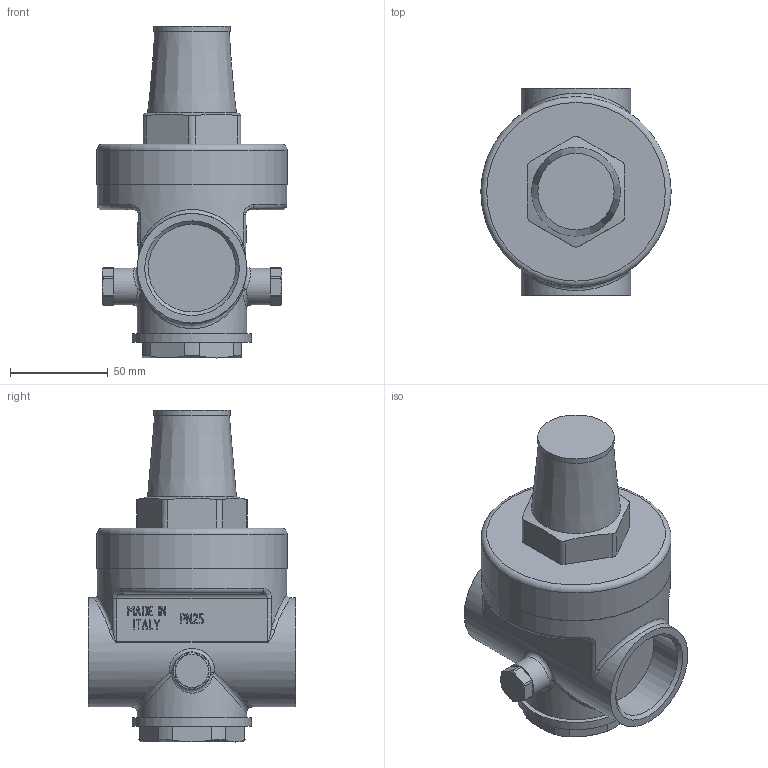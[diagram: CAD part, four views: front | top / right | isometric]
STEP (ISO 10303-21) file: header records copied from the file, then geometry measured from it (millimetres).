
FILE_DESCRIPTION(('STEP AP242'), '1');
FILE_NAME('VT.087.N.0845', '', ('UNSPECIFIED'), ('UNSPECIFIED'), 'C3D Converter', 'C3D Toolkit', '');
FILE_SCHEMA(('AP242_MANAGED_MODEL_BASED_3D_ENGINEERING_MIM_LF { 1 0 10303 442 1 1 4 }'));
Length unit declared in the file: millimetre
Bounding box: 97.5 x 106 x 170 mm (x, y, z)
Volume: 646357.7 mm3; surface area: 61325.1 mm2
Topology: 1 solids, 1 shells, 564 faces, 1532 edges, 1001 vertices
Faces by surface type: extrusion 244, plane 234, cylinder 42, cone 21, bspline 20, torus 3
Full cylindrical faces by diameter (mm): 19 x2, 39.1 x1, 44.846 x2, 56 x2, 61 x1, 97 x1, 97.5 x1
Entity records: 22635 total; most frequent: CARTESIAN_POINT 9692, ORIENTED_EDGE 2992, DIRECTION 1856, EDGE_CURVE 1496, VECTOR 1032, VERTEX_POINT 986, B_SPLINE_CURVE_WITH_KNOTS 848, LINE 788
